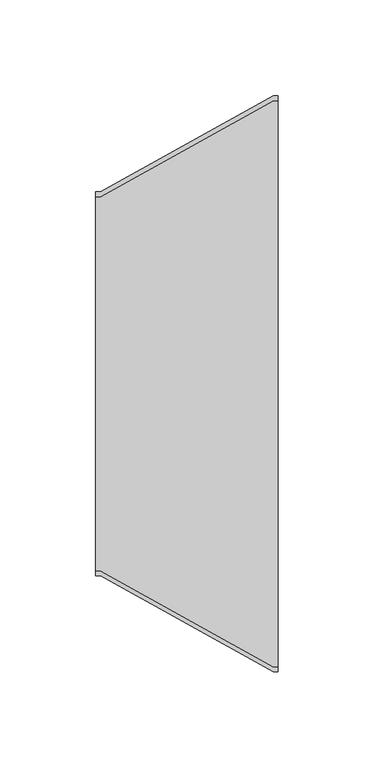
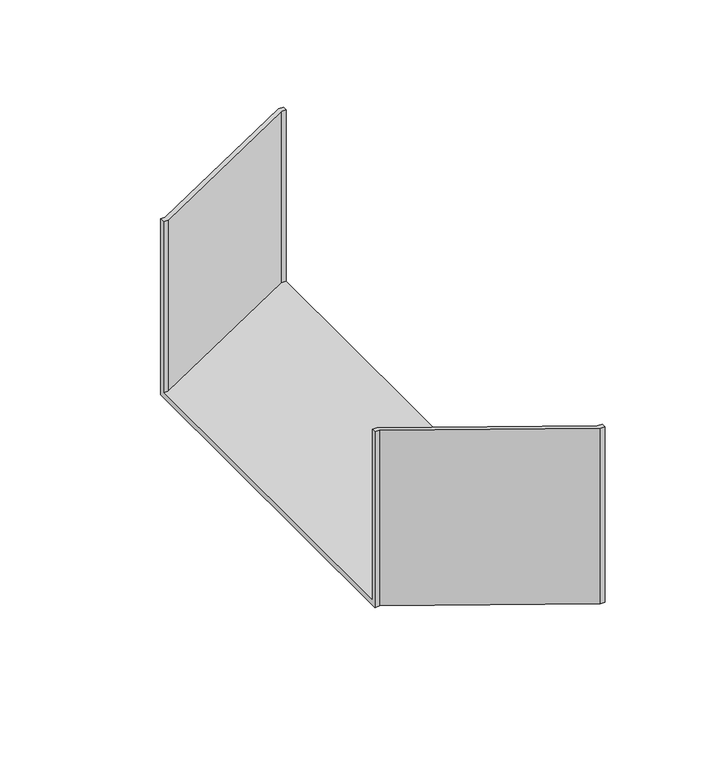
"""IFC4 building model written with IfcOpenShell, lengths in millimetres: cable carrier fitting geometry, BAKS_Reducer : RK(S/L/P)J_H100."""

import ifcopenshell
import ifcopenshell.guid

model = None  # the IFC model being written
_history = None  # IfcOwnerHistory: only IFC2X3 demands one
_inside = {}  # id of a spatial element -> (the spatial element, [elements in it])
_under = {}  # id of a project, library or spatial element -> (it, [spatial elements below it])
_declared = {}  # id of a project -> (the project, [libraries it declares])
_typed = {}  # id of a type object -> (the type object, [elements of that type])
_made_of = {}  # id of a material, layer set ... -> (it, [elements and type objects made of it])


def new_model(schema):
    """Start an empty IFC model of exactly this schema.

    Asked for "IFC4X3", IfcOpenShell would pick the latest addendum, in which some entities
    have other attributes; the version numbers below select the first issue.
    IFC2X3 requires an IfcOwnerHistory on every rooted entity: one is made here for all.
    """
    global model, _history
    if schema == "IFC4X3":
        model = ifcopenshell.file(schema_version=(4, 3, 0, 0))
    else:
        model = ifcopenshell.file(schema=schema)
    _inside.clear()
    _under.clear()
    _declared.clear()
    _typed.clear()
    _made_of.clear()
    _history = None
    if model.schema == "IFC2X3":
        org = make("IfcOrganization", Name="unknown")
        user = make(
            "IfcPersonAndOrganization",
            ThePerson=make("IfcPerson", FamilyName="unknown"),
            TheOrganization=org,
        )
        app = make(
            "IfcApplication",
            ApplicationDeveloper=org,
            Version="unknown",
            ApplicationFullName="unknown",
            ApplicationIdentifier="unknown",
        )
        _history = make(
            "IfcOwnerHistory",
            OwningUser=user,
            OwningApplication=app,
            ChangeAction="ADDED",
            CreationDate=0,
        )
    return model


def make(cls, **values):
    """One entity of the class cls with the attributes given. An attribute that is None is left unset."""
    return model.create_entity(
        cls, **{name: value for name, value in values.items() if value is not None}
    )


def rooted(cls, **values):
    """An entity with a GlobalId (a new one), such as an element, a storey or a relation."""
    return make(cls, GlobalId=ifcopenshell.guid.new(), OwnerHistory=_history, **values)


def si_unit(unit_type, name, prefix=None):
    """IfcSIUnit, for example si_unit("LENGTHUNIT", "METRE", prefix="MILLI")."""
    return make("IfcSIUnit", UnitType=unit_type, Prefix=prefix, Name=name)


def assignment(units):
    """IfcUnitAssignment: the units of a project."""
    return None if units is None else make("IfcUnitAssignment", Units=units)


def point(xyz):
    """IfcCartesianPoint."""
    return None if xyz is None else make("IfcCartesianPoint", Coordinates=xyz)


def direction(xyz):
    """IfcDirection."""
    return None if xyz is None else make("IfcDirection", DirectionRatios=xyz)


def frame(location, z_axis=None, x_axis=None):
    """IfcAxis2Placement3D, a coordinate frame: its origin and axes. An axis left out is left unset."""
    return make(
        "IfcAxis2Placement3D",
        Location=point(location),
        Axis=direction(z_axis),
        RefDirection=direction(x_axis),
    )


def origin():
    """The frame at (0, 0, 0) with its axes left unset."""
    return frame((0.0, 0.0, 0.0))


def place(relative_to, where):
    """IfcLocalPlacement: puts the frame where relative to a parent placement (None: the world)."""
    return make(
        "IfcLocalPlacement", PlacementRelTo=relative_to, RelativePlacement=where
    )


def context(
    kind, dimensions, precision=None, world=None, true_north=None, identifier=None
):
    """IfcGeometricRepresentationContext, for example the 3D "Model" context."""
    return make(
        "IfcGeometricRepresentationContext",
        ContextIdentifier=identifier,
        ContextType=kind,
        CoordinateSpaceDimension=dimensions,
        Precision=precision,
        WorldCoordinateSystem=world,
        TrueNorth=true_north,
    )


def project(units=None, contexts=None):
    """IfcProject with its units and contexts."""
    return rooted(
        "IfcProject",
        Name="project",
        RepresentationContexts=contexts,
        UnitsInContext=assignment(units),
    )


def spatial(cls, under=None, at=None, **own):
    """A site, building, storey or space (cls), placed at a placement, below another one or the project."""
    s = rooted(cls, ObjectPlacement=at, **own)
    if under is not None:
        _under.setdefault(under.id(), (under, []))[1].append(s)
    return s


def faces_of(points, faces, orient=None, outer=None):
    """IfcFace entities. A face is a list of loops; a loop is a list of indices into points, from 0.

    orient and outer hold one flag for each loop. By default every Orientation is true, the
    first loop of a face is its IfcFaceOuterBound and the others are IfcFaceBound.
    """
    made = []
    for i, loops in enumerate(faces):
        bounds = []
        for j, loop in enumerate(loops):
            is_outer = j == 0 if outer is None else outer[i][j]
            bounds.append(
                make(
                    "IfcFaceOuterBound" if is_outer else "IfcFaceBound",
                    Bound=make("IfcPolyLoop", Polygon=[points[k] for k in loop]),
                    Orientation=True if orient is None else orient[i][j],
                )
            )
        made.append(make("IfcFace", Bounds=bounds))
    return made


def faceted_brep(points, faces, orient=None, outer=None, voids=None):
    """IfcFacetedBrep: a solid bounded by flat faces; with voids (closed shells), ...WithVoids."""
    shared = [point(p) for p in points]
    hull = make("IfcClosedShell", CfsFaces=faces_of(shared, faces, orient, outer))
    if voids is None:
        return make("IfcFacetedBrep", Outer=hull)
    return make(
        "IfcFacetedBrepWithVoids",
        Outer=hull,
        Voids=[
            make(cls, CfsFaces=faces_of(shared, fs, o, b)) for cls, fs, o, b in voids
        ],
    )


def shape(context_of_items, identifier, shape_type, items):
    """IfcShapeRepresentation: the items that make up one representation, for example the "Body"."""
    return make(
        "IfcShapeRepresentation",
        ContextOfItems=context_of_items,
        RepresentationIdentifier=identifier,
        RepresentationType=shape_type,
        Items=items,
    )


def source(mapping_origin, context_of_items, identifier, shape_type, items):
    """IfcRepresentationMap: a shape defined once, which mapped items show again and again."""
    return make(
        "IfcRepresentationMap",
        MappingOrigin=mapping_origin,
        MappedRepresentation=shape(context_of_items, identifier, shape_type, items),
    )


def transform(
    local_origin,
    x_axis=None,
    y_axis=None,
    z_axis=None,
    scale=None,
    scale2=None,
    scale3=None,
    uniform=True,
):
    """IfcCartesianTransformationOperator3D, or its non-uniform kind. x_axis, y_axis, z_axis: its Axis1, 2, 3."""
    if uniform:
        return make(
            "IfcCartesianTransformationOperator3D",
            Axis1=direction(x_axis),
            Axis2=direction(y_axis),
            LocalOrigin=point(local_origin),
            Scale=scale,
            Axis3=direction(z_axis),
        )
    return make(
        "IfcCartesianTransformationOperator3DnonUniform",
        Axis1=direction(x_axis),
        Axis2=direction(y_axis),
        LocalOrigin=point(local_origin),
        Scale=scale,
        Axis3=direction(z_axis),
        Scale2=scale2,
        Scale3=scale3,
    )


def mapped(mapping_source, mapping_target):
    """IfcMappedItem: shows the shape of a source again, moved by a transform."""
    return make(
        "IfcMappedItem", MappingSource=mapping_source, MappingTarget=mapping_target
    )


def made_of(thing, what):
    """Note that an element or type object is made of a material, layer set ...; save() writes the relation."""
    if what is not None:
        _made_of.setdefault(what.id(), (what, []))[1].append(thing)
    return thing


def element(
    cls,
    number,
    at=None,
    inside=None,
    cuts=None,
    type_object=None,
    material=None,
    context=None,
    identifier="Body",
    shape_type=None,
    held_by="IfcProductDefinitionShape",
    body=None,
    shapes=None,
    **own,
):
    """One element of the class cls, such as IfcWall. Its Tag is "e" and its number.

    at: its placement. inside: the storey or other place that contains it. cuts: it is an
    opening in that element (IfcRelVoidsElement). A single representation is given by context,
    identifier, shape_type and body (its items); several are given by shapes. held_by: the class
    of the entity that holds the representations. save() writes the other relations.
    """
    e = rooted(cls, Tag="e%d" % number, ObjectPlacement=at, **own)
    if body is not None:
        shapes = [shape(context, identifier, shape_type, body)]
    if shapes is not None:
        e.Representation = make(held_by, Representations=shapes)
    if inside is not None:
        _inside.setdefault(inside.id(), (inside, []))[1].append(e)
    if cuts is not None:
        rooted(
            "IfcRelVoidsElement", RelatingBuildingElement=cuts, RelatedOpeningElement=e
        )
    if type_object is not None:
        _typed.setdefault(type_object.id(), (type_object, []))[1].append(e)
    return made_of(e, material)


def aggregate(whole, parts):
    """IfcRelAggregates: a whole, such as a stair, and the parts it consists of."""
    return rooted("IfcRelAggregates", RelatingObject=whole, RelatedObjects=parts)


def save(model, path):
    """Write the relations noted so far, then the file.

    IfcRelAggregates (storeys below a building ...), IfcRelContainedInSpatialStructure (elements
    in a storey), IfcRelDefinesByType, IfcRelAssociatesMaterial and IfcRelDeclares: one each for
    every whole, place, type object, material and project.
    """
    for whole, parts in _under.values():
        aggregate(whole, parts)
    for where, things in _inside.values():
        rooted(
            "IfcRelContainedInSpatialStructure",
            RelatedElements=things,
            RelatingStructure=where,
        )
    for kind, things in _typed.values():
        rooted("IfcRelDefinesByType", RelatedObjects=things, RelatingType=kind)
    for what, things in _made_of.values():
        rooted("IfcRelAssociatesMaterial", RelatedObjects=things, RelatingMaterial=what)
    for by, libraries in _declared.values():
        rooted("IfcRelDeclares", RelatingContext=by, RelatedDefinitions=libraries)
    model.write(path)


def cable_carrier_fitting_ab346bf8(model_context):
    return source(origin(), model_context, "Body", "Brep", [
        faceted_brep([(0.0, -100.0, -50.0), (0.0, -100.0, 50.0), (0.0, -97.46, 50.0), (0.0, -97.46, -47.46), (0.0, 97.46, -47.46), (0.0, 97.46, 50.0), (0.0, 100.0, 50.0), (0.0, 100.0, -50.0), (95.0, -150.0, -50.0), (95.0, 150.0, -50.0), (95.0, 150.0, 50.0), (95.0, 147.46, 50.0), (95.0, 147.46, -47.46), (95.0, -147.46, -47.46), (95.0, -147.46, 50.0), (95.0, -150.0, 50.0), (2.5, -100.0, -50.0), (2.5, -100.0, 50.0), (92.5, -150.0, 50.0), (92.5, -147.46, 50.0), (2.5, -97.46, 50.0), (2.5, -97.46, -47.46), (92.5, -147.46, -47.46), (92.5, 147.46, -47.46), (2.5, 97.46, -47.46), (2.5, 97.46, 50.0), (92.5, 147.46, 50.0), (92.5, 150.0, 50.0), (2.5, 100.0, 50.0), (2.5, 100.0, -50.0), (92.5, 150.0, -50.0), (92.5, -150.0, -50.0)], [[[0, 1, 2, 3, 4, 5, 6, 7]], [[8, 9, 10, 11, 12, 13, 14, 15]], [[1, 0, 16, 17]], [[2, 1, 17, 18, 15, 14, 19, 20]], [[3, 2, 20, 21]], [[4, 3, 21, 22, 13, 12, 23, 24]], [[5, 4, 24, 25]], [[6, 5, 25, 26, 11, 10, 27, 28]], [[7, 6, 28, 29]], [[0, 7, 29, 30, 9, 8, 31, 16]], [[8, 15, 18, 31]], [[14, 13, 22, 19]], [[12, 11, 26, 23]], [[10, 9, 30, 27]], [[30, 29, 28, 27]], [[26, 25, 24, 23]], [[22, 21, 20, 19]], [[16, 31, 18, 17]]]),
    ])


if __name__ == "__main__":
    model = new_model("IFC4")
    model_context = context("Model", 3, world=origin())
    ifc_project = project(units=[si_unit("LENGTHUNIT", "METRE", prefix="MILLI")], contexts=[model_context])
    site = spatial("IfcSite", under=ifc_project)
    building = spatial("IfcBuilding", under=site)
    placement = place(None, origin())
    cable_carrier_fitting_shape = cable_carrier_fitting_ab346bf8(model_context)
    element("IfcCableCarrierFitting", 1, ObjectType="BAKS_Reducer : RK(S/L/P)J_H100", at=placement, inside=building, context=model_context, shape_type="MappedRepresentation", body=[
        mapped(cable_carrier_fitting_shape, transform((0.0, 0.0, 0.0), x_axis=(1.0, 0.0, 0.0), y_axis=(0.0, 1.0, 0.0), z_axis=(0.0, 0.0, 1.0))),
    ])
    save(model, "model.ifc")
